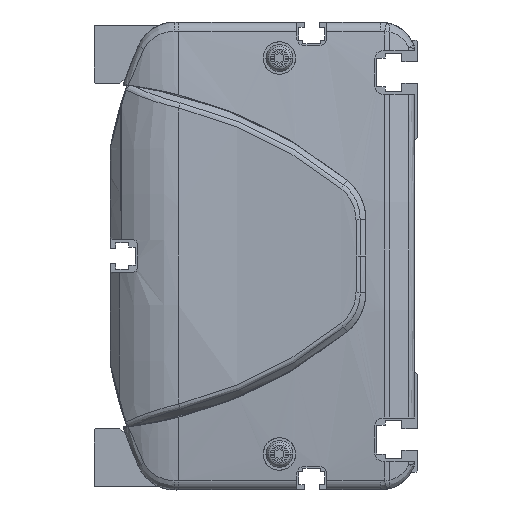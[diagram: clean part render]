
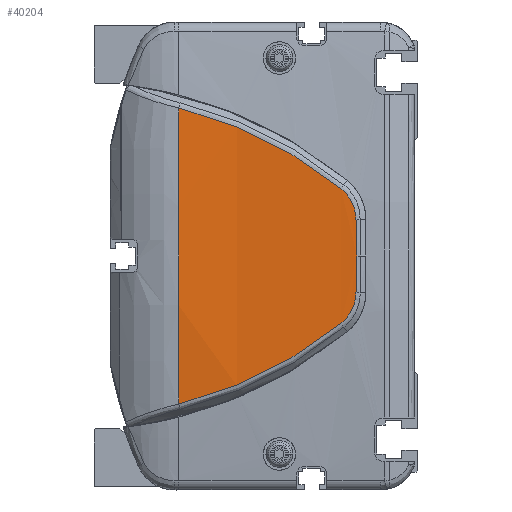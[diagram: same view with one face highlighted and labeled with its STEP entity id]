
A CAD part, left-side view. The second image highlights one B-rep face of the part: STEP entity #40204.
In plain terms, the highlighted cylindrical face has radius 500 mm (diameter 1000 mm), a partial arc.
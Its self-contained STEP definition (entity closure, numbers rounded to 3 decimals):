
#36457=CARTESIAN_POINT('',(486.,66.362,0.));
#36458=DIRECTION('',(0.,-1.,0.));
#36459=DIRECTION('',(-0.997,0.,0.082));
#36460=AXIS2_PLACEMENT_3D('',#36457,#36458,#36459);
#37341=CARTESIAN_POINT('',(-13.648,21.313,
-18.759));
#37342=CARTESIAN_POINT('',(-13.449,27.904,
-24.058));
#37343=CARTESIAN_POINT('',(-12.934,42.195,
-33.27));
#37344=CARTESIAN_POINT('',(-12.471,58.156,
-39.127));
#37345=CARTESIAN_POINT('',(-12.306,66.362,
-41.121));
#37347=CARTESIAN_POINT('',(-12.306,66.362,
41.121));
#37348=CARTESIAN_POINT('',(-12.471,58.156,
39.127));
#37349=CARTESIAN_POINT('',(-12.934,42.195,
33.27));
#37350=CARTESIAN_POINT('',(-13.449,27.904,
24.058));
#37351=CARTESIAN_POINT('',(-13.648,21.313,
18.759));
#37353=CARTESIAN_POINT('',(-13.648,21.313,
18.759));
#37354=CARTESIAN_POINT('',(-13.686,20.035,
17.736));
#37355=CARTESIAN_POINT('',(-13.779,17.936,
15.107));
#37356=CARTESIAN_POINT('',(-13.863,17.152,
11.827));
#37357=CARTESIAN_POINT('',(-13.896,17.124,
10.178));
#37359=CARTESIAN_POINT('',(-13.896,17.124,
10.178));
#37360=CARTESIAN_POINT('',(-13.92,17.107,
9.026));
#37361=CARTESIAN_POINT('',(-13.959,17.067,
6.736));
#37362=CARTESIAN_POINT('',(-13.993,16.98,
3.342));
#37363=CARTESIAN_POINT('',(-14.,16.898,
1.109));
#37364=CARTESIAN_POINT('',(-14.,16.849,
0.));
#37366=CARTESIAN_POINT('',(-14.,16.849,
0.));
#37367=CARTESIAN_POINT('',(-14.,16.898,
-1.109));
#37368=CARTESIAN_POINT('',(-13.993,16.98,
-3.342));
#37369=CARTESIAN_POINT('',(-13.959,17.067,
-6.735));
#37370=CARTESIAN_POINT('',(-13.92,17.107,
-9.028));
#37371=CARTESIAN_POINT('',(-13.896,17.124,
-10.18));
#37373=CARTESIAN_POINT('',(-13.896,17.124,
-10.18));
#37374=CARTESIAN_POINT('',(-13.863,17.152,
-11.828));
#37375=CARTESIAN_POINT('',(-13.779,17.937,
-15.109));
#37376=CARTESIAN_POINT('',(-13.686,20.035,
-17.736));
#37377=CARTESIAN_POINT('',(-13.648,21.313,
-18.759));
#38026=VERTEX_POINT('',#37341);
#38027=VERTEX_POINT('',#37345);
#38028=CARTESIAN_POINT('',(-12.306,66.362,
41.121));
#38029=VERTEX_POINT('',#38028);
#38030=VERTEX_POINT('',#37351);
#38031=VERTEX_POINT('',#37357);
#38032=VERTEX_POINT('',#37364);
#38033=VERTEX_POINT('',#37371);
#40185=CARTESIAN_POINT('',(486.,8.006,0.));
#40186=DIRECTION('',(0.,1.,0.));
#40187=DIRECTION('',(1.,0.,0.));
#40188=AXIS2_PLACEMENT_3D('',#40185,#40186,#40187);
#40189=CYLINDRICAL_SURFACE('',#40188,500.);
#40191=ORIENTED_EDGE('',*,*,#40190,.T.);
#40192=ORIENTED_EDGE('',*,*,#38828,.F.);
#40194=ORIENTED_EDGE('',*,*,#40193,.T.);
#40196=ORIENTED_EDGE('',*,*,#40195,.T.);
#40198=ORIENTED_EDGE('',*,*,#40197,.T.);
#40200=ORIENTED_EDGE('',*,*,#40199,.T.);
#40201=ORIENTED_EDGE('',*,*,#40175,.T.);
#40202=EDGE_LOOP('',(#40191,#40192,#40194,#40196,#40198,#40200,#40201));
#40203=FACE_OUTER_BOUND('',#40202,.F.);
#40204=ADVANCED_FACE('',(#40203),#40189,.T.);
#36461=CIRCLE('',#36460,500.);
#37346=B_SPLINE_CURVE_WITH_KNOTS('',3,(#37341,#37342,#37343,#37344,#37345),
.UNSPECIFIED.,.F.,.F.,(4,1,4),(0.,0.5,1.),.UNSPECIFIED.);
#37352=B_SPLINE_CURVE_WITH_KNOTS('',3,(#37347,#37348,#37349,#37350,#37351),
.UNSPECIFIED.,.F.,.F.,(4,1,4),(0.,0.5,1.),.UNSPECIFIED.);
#37358=B_SPLINE_CURVE_WITH_KNOTS('',3,(#37353,#37354,#37355,#37356,#37357),
.UNSPECIFIED.,.F.,.F.,(4,1,4),(0.,0.5,1.),.UNSPECIFIED.);
#37365=B_SPLINE_CURVE_WITH_KNOTS('',3,(#37359,#37360,#37361,#37362,#37363,
#37364),.UNSPECIFIED.,.F.,.F.,(4,1,1,4),(0.,0.333,
0.667,1.),.UNSPECIFIED.);
#37372=B_SPLINE_CURVE_WITH_KNOTS('',3,(#37366,#37367,#37368,#37369,#37370,
#37371),.UNSPECIFIED.,.F.,.F.,(4,1,1,4),(0.,0.333,
0.667,1.),.UNSPECIFIED.);
#37378=B_SPLINE_CURVE_WITH_KNOTS('',3,(#37373,#37374,#37375,#37376,#37377),
.UNSPECIFIED.,.F.,.F.,(4,1,4),(0.,0.5,1.),.UNSPECIFIED.);
#38828=EDGE_CURVE('',#38029,#38027,#36461,.T.);
#40175=EDGE_CURVE('',#38033,#38026,#37378,.T.);
#40190=EDGE_CURVE('',#38026,#38027,#37346,.T.);
#40193=EDGE_CURVE('',#38029,#38030,#37352,.T.);
#40195=EDGE_CURVE('',#38030,#38031,#37358,.T.);
#40197=EDGE_CURVE('',#38031,#38032,#37365,.T.);
#40199=EDGE_CURVE('',#38032,#38033,#37372,.T.);
